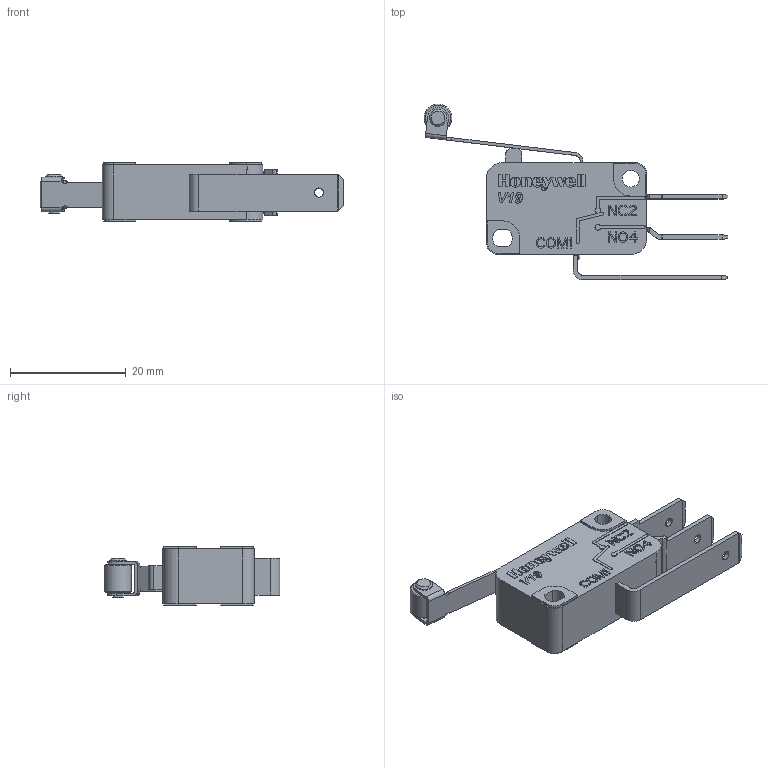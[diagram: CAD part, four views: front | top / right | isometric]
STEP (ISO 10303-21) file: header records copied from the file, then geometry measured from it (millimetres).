
FILE_DESCRIPTION((''),'2;1');
FILE_NAME('V19S05-N2Z200A06-K_AS_SW0001','2020-06-22T12:36:17',('H260800'),(''),'CREO PARAMETRIC BY PTC INC, 2017380','CREO PARAMETRIC BY PTC INC, 2017380','');
FILE_SCHEMA(('CONFIG_CONTROL_DESIGN'));
Length unit declared in the file: millimetre
Products named in the file (1): V19S05-N2Z200A06-K_AS_SW0001
Bounding box: 52.57 x 30.43 x 10.2 mm (x, y, z)
Volume: 4530.7 mm3; surface area: 3229.5 mm2
Topology: 1 solids, 1 shells, 677 faces, 1902 edges, 1269 vertices
Faces by surface type: plane 475, extrusion 101, cylinder 91, cone 6, torus 2, bspline 2
Entity records: 24293 total; most frequent: CARTESIAN_POINT 6999, ORIENTED_EDGE 3804, DIRECTION 3106, EDGE_CURVE 1902, VECTOR 1570, LINE 1469, VERTEX_POINT 1269, AXIS2_PLACEMENT_3D 768
